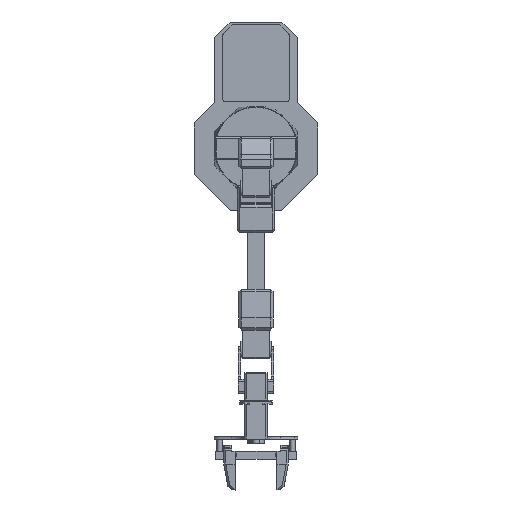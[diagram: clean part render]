
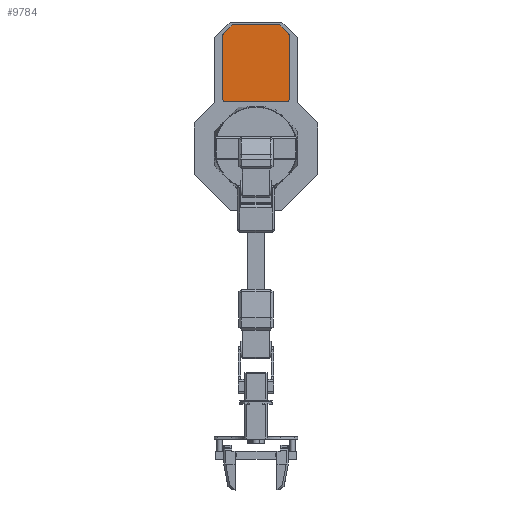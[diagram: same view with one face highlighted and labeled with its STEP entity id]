
A CAD part, top view. The second image highlights one B-rep face of the part: STEP entity #9784.
In plain terms, the highlighted planar face has unit normal (0, 0, 1).
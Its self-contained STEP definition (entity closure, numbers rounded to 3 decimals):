
#255=PLANE('',#10471);
#680=FACE_OUTER_BOUND('',#1263,.T.);
#1263=EDGE_LOOP('',(#6772,#6773,#6774,#6775,#6776,#6777,#6778,#6779,#6780,
#6781,#6782,#6783));
#1876=LINE('',#14236,#2960);
#1880=LINE('',#14248,#2964);
#1884=LINE('',#14260,#2968);
#1888=LINE('',#14272,#2972);
#1892=LINE('',#14284,#2976);
#1895=LINE('',#14293,#2979);
#2960=VECTOR('',#11358,10.);
#2964=VECTOR('',#11370,10.);
#2968=VECTOR('',#11382,10.);
#2972=VECTOR('',#11394,10.);
#2976=VECTOR('',#11406,10.);
#2979=VECTOR('',#11417,10.);
#4041=CIRCLE('',#10449,3.);
#4043=CIRCLE('',#10453,3.);
#4045=CIRCLE('',#10457,3.);
#4047=CIRCLE('',#10461,3.);
#4049=CIRCLE('',#10465,2.5);
#4051=CIRCLE('',#10469,2.5);
#4331=VERTEX_POINT('',#14226);
#4332=VERTEX_POINT('',#14228);
#4334=VERTEX_POINT('',#14234);
#4336=VERTEX_POINT('',#14240);
#4338=VERTEX_POINT('',#14246);
#4340=VERTEX_POINT('',#14252);
#4342=VERTEX_POINT('',#14258);
#4344=VERTEX_POINT('',#14264);
#4346=VERTEX_POINT('',#14270);
#4348=VERTEX_POINT('',#14276);
#4350=VERTEX_POINT('',#14282);
#4352=VERTEX_POINT('',#14288);
#5262=EDGE_CURVE('',#4332,#4331,#4041,.T.);
#5266=EDGE_CURVE('',#4331,#4334,#1876,.T.);
#5269=EDGE_CURVE('',#4334,#4336,#4043,.T.);
#5272=EDGE_CURVE('',#4336,#4338,#1880,.T.);
#5275=EDGE_CURVE('',#4338,#4340,#4045,.T.);
#5278=EDGE_CURVE('',#4340,#4342,#1884,.T.);
#5281=EDGE_CURVE('',#4342,#4344,#4047,.T.);
#5284=EDGE_CURVE('',#4344,#4346,#1888,.T.);
#5287=EDGE_CURVE('',#4346,#4348,#4049,.T.);
#5290=EDGE_CURVE('',#4348,#4350,#1892,.T.);
#5293=EDGE_CURVE('',#4350,#4352,#4051,.T.);
#5295=EDGE_CURVE('',#4352,#4332,#1895,.T.);
#6772=ORIENTED_EDGE('',*,*,#5275,.T.);
#6773=ORIENTED_EDGE('',*,*,#5278,.T.);
#6774=ORIENTED_EDGE('',*,*,#5281,.T.);
#6775=ORIENTED_EDGE('',*,*,#5284,.T.);
#6776=ORIENTED_EDGE('',*,*,#5287,.T.);
#6777=ORIENTED_EDGE('',*,*,#5290,.T.);
#6778=ORIENTED_EDGE('',*,*,#5293,.T.);
#6779=ORIENTED_EDGE('',*,*,#5295,.T.);
#6780=ORIENTED_EDGE('',*,*,#5262,.T.);
#6781=ORIENTED_EDGE('',*,*,#5266,.T.);
#6782=ORIENTED_EDGE('',*,*,#5269,.T.);
#6783=ORIENTED_EDGE('',*,*,#5272,.T.);
#9784=ADVANCED_FACE('',(#680),#255,.T.);
#10449=AXIS2_PLACEMENT_3D('',#14229,#11351,#11352);
#10453=AXIS2_PLACEMENT_3D('',#14242,#11364,#11365);
#10457=AXIS2_PLACEMENT_3D('',#14254,#11376,#11377);
#10461=AXIS2_PLACEMENT_3D('',#14266,#11388,#11389);
#10465=AXIS2_PLACEMENT_3D('',#14278,#11400,#11401);
#10469=AXIS2_PLACEMENT_3D('',#14290,#11412,#11413);
#10471=AXIS2_PLACEMENT_3D('',#14294,#11418,#11419);
#11351=DIRECTION('center_axis',(0.,0.,
1.));
#11352=DIRECTION('ref_axis',(-0.707,0.707,0.));
#11358=DIRECTION('',(0.,-1.,0.));
#11364=DIRECTION('center_axis',(0.,0.,
1.));
#11365=DIRECTION('ref_axis',(-1.,0.,0.));
#11370=DIRECTION('',(1.,0.,0.));
#11376=DIRECTION('center_axis',(0.,0.,
1.));
#11377=DIRECTION('ref_axis',(0.,-1.,0.));
#11382=DIRECTION('',(0.,1.,0.));
#11388=DIRECTION('center_axis',(0.,0.,
1.));
#11389=DIRECTION('ref_axis',(1.,0.,0.));
#11394=DIRECTION('',(-0.707,0.707,0.));
#11400=DIRECTION('center_axis',(0.,0.,
1.));
#11401=DIRECTION('ref_axis',(0.707,0.707,0.));
#11406=DIRECTION('',(-1.,-0.001,0.));
#11412=DIRECTION('center_axis',(0.,0.,
1.));
#11413=DIRECTION('ref_axis',(-0.001,1.,0.));
#11417=DIRECTION('',(-0.707,-0.707,0.));
#11418=DIRECTION('center_axis',(0.,0.,
1.));
#11419=DIRECTION('ref_axis',(-1.,0.,0.));
#14226=CARTESIAN_POINT('',(-41.,140.757,37.));
#14228=CARTESIAN_POINT('',(-40.121,142.879,37.));
#14229=CARTESIAN_POINT('Origin',(-38.,140.757,37.));
#14234=CARTESIAN_POINT('',(-41.,61.,37.));
#14236=CARTESIAN_POINT('',(-41.,140.757,37.));
#14240=CARTESIAN_POINT('',(-38.,58.,37.));
#14242=CARTESIAN_POINT('Origin',(-38.,61.,37.));
#14246=CARTESIAN_POINT('',(38.,58.,37.));
#14248=CARTESIAN_POINT('',(-38.,58.,37.));
#14252=CARTESIAN_POINT('',(41.,61.,37.));
#14254=CARTESIAN_POINT('Origin',(38.,61.,37.));
#14258=CARTESIAN_POINT('',(41.,140.757,37.));
#14260=CARTESIAN_POINT('',(41.,61.,37.));
#14264=CARTESIAN_POINT('',(40.121,142.879,37.));
#14266=CARTESIAN_POINT('Origin',(38.,140.757,37.));
#14270=CARTESIAN_POINT('',(29.673,153.327,37.));
#14272=CARTESIAN_POINT('',(40.121,142.879,37.));
#14276=CARTESIAN_POINT('',(27.904,154.059,37.));
#14278=CARTESIAN_POINT('Origin',(27.906,151.559,37.));
#14282=CARTESIAN_POINT('',(-27.943,154.023,37.));
#14284=CARTESIAN_POINT('',(27.904,154.059,37.));
#14288=CARTESIAN_POINT('',(-29.71,153.29,37.));
#14290=CARTESIAN_POINT('Origin',(-27.942,151.523,37.));
#14293=CARTESIAN_POINT('',(-29.71,153.29,37.));
#14294=CARTESIAN_POINT('Origin',(0.,106.029,
37.));
